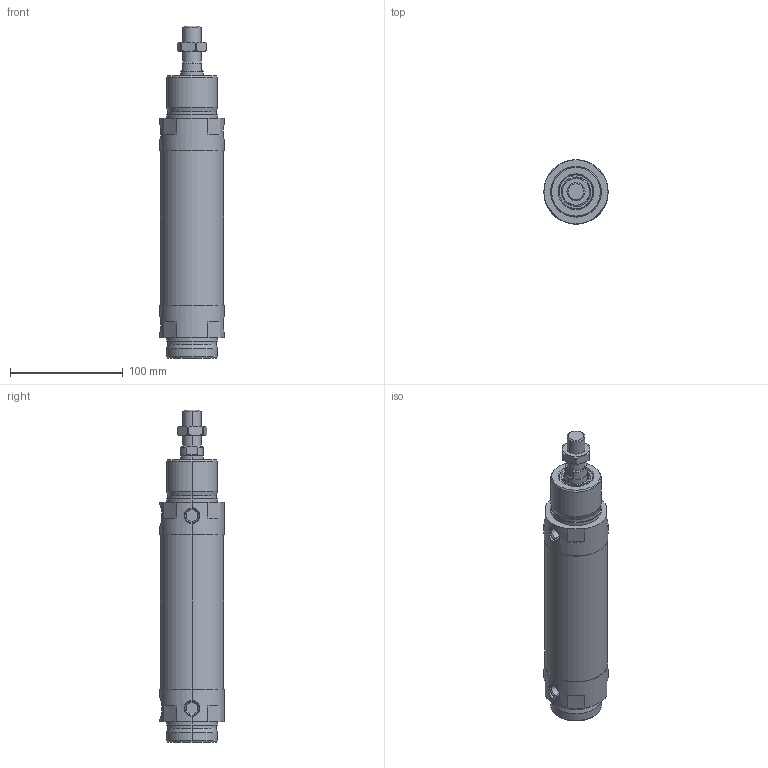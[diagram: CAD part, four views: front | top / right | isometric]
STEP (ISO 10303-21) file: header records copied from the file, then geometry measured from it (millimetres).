
FILE_DESCRIPTION (( 'STEP AP214' ), '1' );
FILE_NAME ('2400963n.STEP', '2016-11-03T15:46:43', ( '' ), ( '' ), 'SwSTEP 2.0', 'SolidWorks 2016', '' );
FILE_SCHEMA (( 'AUTOMOTIVE_DESIGN' ));
Length unit declared in the file: millimetre
Products named in the file (1): 2400963n
Bounding box: 57 x 57 x 295 mm (x, y, z)
Volume: 571476.1 mm3; surface area: 65201.5 mm2
Topology: 3 solids, 4 shells, 172 faces, 382 edges, 234 vertices
Faces by surface type: cylinder 65, plane 53, cone 48, torus 6
Entity records: 7385 total; most frequent: CARTESIAN_POINT 1606, DIRECTION 852, ORIENTED_EDGE 764, EDGE_CURVE 382, AXIS2_PLACEMENT_3D 354, VERTEX_POINT 234, EDGE_LOOP 190, CIRCLE 181
